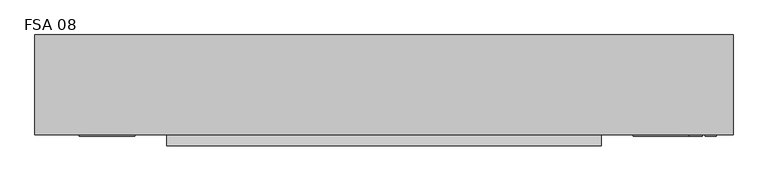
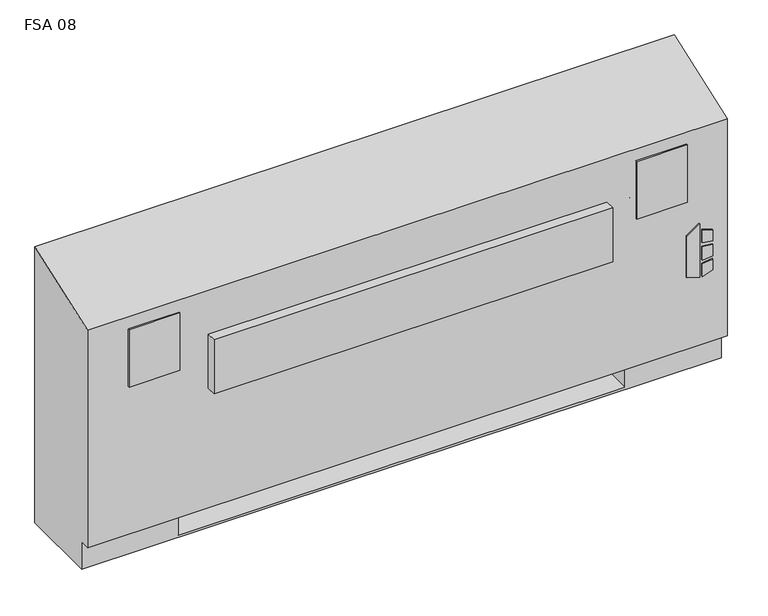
"""IFC4 building model written with IfcOpenShell, lengths in millimetres: proxy geometry, Vertical_Fan_Coil_Unit_-_FSA_-_IEC_-_2-Pipe_FS-FR_RH_2022 : FSA 08."""

from ifc_helpers import new_model, si_unit, point, frame, frame_2d, origin, place, context, project, spatial, polyline, circle_curve, trimmed, segment, composite_curve, outline, extrude, source, transform, mapped, element, save
from ifc_brep_helpers import plane_surface, revolved_surface, advanced_brep


def fsa_08_34fc3663(model_context):
    return source(origin(), model_context, "Body", "SolidModel", [
        extrude(outline(polyline([(263.9480703, 849.3868862), (254.0, 881.5602728), (396.1709244, 881.5602728), (373.1489183, 849.3868862), (263.9480703, 849.3868862)])), frame((0.0, 12.7, 0.0), z_axis=(0.0, 1.0, 0.0), x_axis=(0.0, 0.0, 1.0)), (0.0, 0.0, 1.0), 3.175),
        extrude(outline(polyline([(342.9473557, 888.3186058), (339.7449632, 914.4), (368.9738042, 914.4), (377.0382193, 888.3186058), (342.9473557, 888.3186058)])), frame((0.0, 12.7, 0.0), z_axis=(0.0, 1.0, 0.0), x_axis=(0.0, 0.0, 1.0)), (0.0, 0.0, 1.0), 3.175),
        extrude(outline(polyline([(291.0838288, 914.4), (287.4183279, 888.3186058), (254.0, 888.3186058), (262.6342372, 914.4), (291.0838288, 914.4)])), frame((0.0, 12.7, 0.0), z_axis=(0.0, 1.0, 0.0), x_axis=(0.0, 0.0, 1.0)), (0.0, 0.0, 1.0), 3.175),
        extrude(outline(polyline([(330.3989903, 914.4), (332.6808166, 888.3186058), (296.7432681, 888.3186058), (299.4845331, 914.4), (330.3989903, 914.4)])), frame((0.0, 12.7, 0.0), z_axis=(0.0, 1.0, 0.0), x_axis=(0.0, 0.0, 1.0)), (0.0, 0.0, 1.0), 3.175),
        extrude(outline(polyline([(-527.05, 81.534), (-527.05, 223.266), (-406.4, 223.266), (-406.4, 81.534), (-527.05, 81.534)])), frame((0.0, 0.0, 327.025), z_axis=(0.0, 0.0, 1.0), x_axis=(1.0, 0.0, 0.0)), (0.0, 0.0, 1.0), 260.35),
        extrude(outline(polyline([(-419.1, 12.7), (-546.1, 12.7), (-546.1, 15.875), (-419.1, 15.875), (-419.1, 12.7)])), frame((0.0, 0.0, 463.55), z_axis=(0.0, 0.0, 1.0), x_axis=(1.0, 0.0, 0.0)), (0.0, 0.0, 1.0), 152.4),
        extrude(outline(polyline([(850.9, 12.7), (723.9, 12.7), (723.9, 15.875), (850.9, 15.875), (850.9, 12.7)])), frame((0.0, 0.0, 463.55), z_axis=(0.0, 0.0, 1.0), x_axis=(1.0, 0.0, 0.0)), (0.0, 0.0, 1.0), 152.4),
        extrude(outline(composite_curve([segment(trimmed(circle_curve(frame_2d((774.7, 130.175)), 9.525), [point((765.175, 130.175))], [point((784.225, 130.175))], False, "CARTESIAN"), True, "CONTINUOUS"), segment(trimmed(circle_curve(frame_2d((774.7, 130.175)), 9.525), [point((784.225, 130.175))], [point((765.175, 130.175))], False, "CARTESIAN"), True, "CONTINUOUS")], self_intersect=False)), frame((0.0, 0.0, 101.6), z_axis=(0.0, 0.0, 1.0), x_axis=(1.0, 0.0, 0.0)), (0.0, 0.0, 1.0), 25.4),
        extrude(outline(polyline([(876.3, 196.85), (876.3, 63.5), (711.2, 63.5), (711.2, 196.85), (876.3, 196.85)])), frame((0.0, 0.0, 127.0), z_axis=(0.0, 0.0, 1.0), x_axis=(1.0, 0.0, 0.0)), (0.0, 0.0, 1.0), 50.8),
        extrude(outline(polyline([(650.875, -9.525), (-346.075, -9.525), (-346.075, 15.875), (650.875, 15.875), (650.875, -9.525)])), frame((0.0, 0.0, 389.3009245), z_axis=(0.0, 0.0, 1.0), x_axis=(1.0, 0.0, 0.0)), (0.0, 0.0, 1.0), 142.875),
        extrude(outline(composite_curve([segment(trimmed(circle_curve(frame_2d((109.347, 456.819)), 7.9375), [point((109.347, 464.7565))], [point((109.347, 448.8815))], False, "CARTESIAN"), True, "CONTINUOUS"), segment(trimmed(circle_curve(frame_2d((109.347, 456.819)), 7.9375), [point((109.347, 448.8815))], [point((109.347, 464.7565))], False, "CARTESIAN"), True, "CONTINUOUS")], self_intersect=False)), frame((711.2, 0.0, 0.0), z_axis=(1.0, 0.0, 0.0), x_axis=(0.0, 1.0, 0.0)), (0.0, 0.0, 1.0), 50.8),
        extrude(outline(composite_curve([segment(trimmed(circle_curve(frame_2d((157.4546, 429.4632)), 7.9375), [point((157.4546, 437.4007))], [point((157.4546, 421.5257))], False, "CARTESIAN"), True, "CONTINUOUS"), segment(trimmed(circle_curve(frame_2d((157.4546, 429.4632)), 7.9375), [point((157.4546, 421.5257))], [point((157.4546, 437.4007))], False, "CARTESIAN"), True, "CONTINUOUS")], self_intersect=False)), frame((711.2, 0.0, 0.0), z_axis=(1.0, 0.0, 0.0), x_axis=(0.0, 1.0, 0.0)), (0.0, 0.0, 1.0), 50.8),
        advanced_brep(
        [(-647.7, 244.475, 0.0), (952.5, 244.475, 0.0), (952.5, 41.275, 0.0), (-647.7, 41.275, 0.0), (-647.7, 244.475, 730.25), (952.5, 244.475, 730.25), (711.2, 244.475, 73.025), (939.8, 244.475, 73.025), (939.8, 244.475, 654.05), (711.2, 244.475, 654.05), (711.2, 244.475, 414.8650565), (739.775, 244.475, 414.8650565), (739.775, 244.475, 385.2349435), (711.2, 244.475, 385.2349435), (711.2, 244.475, 287.3375), (739.775, 244.475, 287.3375), (739.775, 244.475, 258.7625), (711.2, 244.475, 258.7625), (711.2, 244.475, 141.2875), (739.775, 244.475, 141.2875), (739.775, 244.475, 112.7125), (711.2, 244.475, 112.7125), (-406.4, 244.475, 654.05), (-635.0, 244.475, 654.05), (-635.0, 244.475, 73.025), (-406.4, 244.475, 73.025), (-406.4, 244.475, 112.7125), (-434.975, 244.475, 112.7125), (-434.975, 244.475, 141.2875), (-406.4, 244.475, 141.2875), (-406.4, 244.475, 258.7625), (-434.975, 244.475, 258.7625), (-434.975, 244.475, 287.3375), (-406.4, 244.475, 287.3375), (-406.4, 244.475, 385.2349435), (-434.975, 244.475, 385.2349435), (-434.975, 244.475, 414.8650565), (-406.4, 244.475, 414.8650565), (729.4626, 244.475, 127.0), (718.3374, 244.475, 127.0), (729.4626, 244.475, 400.05), (718.3374, 244.475, 400.05), (729.4626, 244.475, 273.05), (718.3374, 244.475, 273.05), (-413.5374, 244.475, 127.0), (-424.6626, 244.475, 127.0), (-413.5374, 244.475, 273.05), (-424.6626, 244.475, 273.05), (-413.5374, 244.475, 400.05), (-424.6626, 244.475, 400.05), (-647.7, 41.275, 73.025), (-647.7, 15.875, 73.025), (-647.7, 15.875, 647.7), (952.5, 15.875, 73.025), (952.5, 15.875, 647.7), (952.5, 41.275, 73.025), (-406.4, 41.275, 73.025), (-406.4, 225.425, 73.025), (711.2, 225.425, 73.025), (711.2, 41.275, 73.025), (711.2, 41.275, 6.35), (-406.4, 41.275, 6.35), (711.2, 41.275, 654.05), (939.8, 41.275, 654.05), (939.8, 41.275, 73.025), (711.2, 41.275, 73.025), (-406.4, 41.275, 654.05), (-406.4, 41.275, 73.025), (-635.0, 41.275, 73.025), (-635.0, 41.275, 654.05), (711.2, 225.425, 73.025), (711.2, 238.125, 112.7125), (711.2, 238.125, 141.2875), (711.2, 238.125, 258.7625), (711.2, 238.125, 287.3375), (711.2, 238.125, 385.2349435), (711.2, 238.125, 414.8650565), (-406.4, 225.425, 73.025), (-406.4, 238.125, 414.8650565), (-406.4, 238.125, 385.2349435), (-406.4, 238.125, 287.3375), (-406.4, 238.125, 258.7625), (-406.4, 238.125, 141.2875), (-406.4, 238.125, 112.7125), (-406.4, 225.425, 6.35), (711.2, 225.425, 6.35), (739.775, 238.125, 112.7125), (739.775, 238.125, 141.2875), (718.3374, 238.125, 127.0), (729.4626, 238.125, 127.0), (739.775, 238.125, 258.7625), (739.775, 238.125, 287.3375), (718.3374, 238.125, 273.05), (729.4626, 238.125, 273.05), (739.775, 238.125, 385.2349435), (739.775, 238.125, 414.8650565), (718.3374, 238.125, 400.05), (729.4626, 238.125, 400.05), (-434.975, 238.125, 141.2875), (-434.975, 238.125, 112.7125), (-424.6626, 238.125, 127.0), (-413.5374, 238.125, 127.0), (-434.975, 238.125, 287.3375), (-434.975, 238.125, 258.7625), (-424.6626, 238.125, 273.05), (-413.5374, 238.125, 273.05), (-434.975, 238.125, 414.8650565), (-434.975, 238.125, 385.2349435), (-424.6626, 238.125, 400.05), (-413.5374, 238.125, 400.05)],
        [
            (0, 1),
            (1, 2),
            (2, 3),
            (3, 0),
            (0, 4),
            (4, 5),
            (5, 1),
            (6, 7),
            (7, 8),
            (8, 9),
            (9, 10),
            (10, 11),
            (11, 12),
            (12, 13),
            (13, 14),
            (14, 15),
            (15, 16),
            (16, 17),
            (17, 18),
            (18, 19),
            (19, 20),
            (20, 21),
            (21, 6),
            (22, 23),
            (23, 24),
            (24, 25),
            (25, 26),
            (26, 27),
            (27, 28),
            (28, 29),
            (29, 30),
            (30, 31),
            (31, 32),
            (32, 33),
            (33, 34),
            (34, 35),
            (35, 36),
            (36, 37),
            (37, 22),
            (38, 39, circle_curve(frame((723.9, 244.475, 127.0), z_axis=(0.0, -1.0, 0.0), x_axis=(-1.0, 0.0, 0.0)), 5.5626)),
            (39, 38, circle_curve(frame((723.9, 244.475, 127.0), z_axis=(0.0, -1.0, 0.0), x_axis=(-1.0, 0.0, 0.0)), 5.5626)),
            (40, 41, circle_curve(frame((723.9, 244.475, 400.05), z_axis=(0.0, -1.0, 0.0), x_axis=(-1.0, 0.0, 0.0)), 5.5626)),
            (41, 40, circle_curve(frame((723.9, 244.475, 400.05), z_axis=(0.0, -1.0, 0.0), x_axis=(-1.0, 0.0, 0.0)), 5.5626)),
            (42, 43, circle_curve(frame((723.9, 244.475, 273.05), z_axis=(0.0, -1.0, 0.0), x_axis=(-1.0, 0.0, 0.0)), 5.5626)),
            (43, 42, circle_curve(frame((723.9, 244.475, 273.05), z_axis=(0.0, -1.0, 0.0), x_axis=(-1.0, 0.0, 0.0)), 5.5626)),
            (44, 45, circle_curve(frame((-419.1, 244.475, 127.0), z_axis=(0.0, -1.0, 0.0), x_axis=(-1.0, 0.0, 0.0)), 5.5626)),
            (45, 44, circle_curve(frame((-419.1, 244.475, 127.0), z_axis=(0.0, -1.0, 0.0), x_axis=(-1.0, 0.0, 0.0)), 5.5626)),
            (46, 47, circle_curve(frame((-419.1, 244.475, 273.05), z_axis=(0.0, -1.0, 0.0), x_axis=(-1.0, 0.0, 0.0)), 5.5626)),
            (47, 46, circle_curve(frame((-419.1, 244.475, 273.05), z_axis=(0.0, -1.0, 0.0), x_axis=(-1.0, 0.0, 0.0)), 5.5626)),
            (48, 49, circle_curve(frame((-419.1, 244.475, 400.05), z_axis=(0.0, -1.0, 0.0), x_axis=(-1.0, 0.0, 0.0)), 5.5626)),
            (49, 48, circle_curve(frame((-419.1, 244.475, 400.05), z_axis=(0.0, -1.0, 0.0), x_axis=(-1.0, 0.0, 0.0)), 5.5626)),
            (3, 50),
            (50, 51),
            (51, 52),
            (52, 4),
            (51, 53),
            (53, 54),
            (54, 52),
            (5, 54),
            (53, 55),
            (55, 2),
            (50, 56),
            (56, 57),
            (57, 58),
            (58, 59),
            (59, 55),
            (59, 60),
            (60, 61),
            (61, 56),
            (62, 63),
            (63, 64),
            (64, 65),
            (65, 62),
            (66, 67),
            (67, 68),
            (68, 69),
            (69, 66),
            (65, 70),
            (70, 6),
            (21, 71),
            (71, 72),
            (72, 18),
            (17, 73),
            (73, 74),
            (74, 14),
            (13, 75),
            (75, 76),
            (76, 10),
            (9, 62),
            (64, 7),
            (63, 8),
            (69, 23),
            (22, 66),
            (68, 24),
            (67, 77),
            (77, 25),
            (37, 78),
            (78, 79),
            (79, 34),
            (33, 80),
            (80, 81),
            (81, 30),
            (29, 82),
            (82, 83),
            (83, 26),
            (57, 84),
            (84, 85),
            (85, 58),
            (85, 60),
            (84, 61),
            (71, 86),
            (86, 87),
            (87, 72),
            (88, 89, circle_curve(frame((723.9, 238.125, 127.0), z_axis=(0.0, 1.0, 0.0), x_axis=(-1.0, 0.0, 0.0)), 5.5626)),
            (89, 88, circle_curve(frame((723.9, 238.125, 127.0), z_axis=(0.0, 1.0, 0.0), x_axis=(-1.0, 0.0, 0.0)), 5.5626)),
            (73, 90),
            (90, 91),
            (91, 74),
            (92, 93, circle_curve(frame((723.9, 238.125, 273.05), z_axis=(0.0, 1.0, 0.0), x_axis=(-1.0, 0.0, 0.0)), 5.5626)),
            (93, 92, circle_curve(frame((723.9, 238.125, 273.05), z_axis=(0.0, 1.0, 0.0), x_axis=(-1.0, 0.0, 0.0)), 5.5626)),
            (75, 94),
            (94, 95),
            (95, 76),
            (96, 97, circle_curve(frame((723.9, 238.125, 400.05), z_axis=(0.0, 1.0, 0.0), x_axis=(-1.0, 0.0, 0.0)), 5.5626)),
            (97, 96, circle_curve(frame((723.9, 238.125, 400.05), z_axis=(0.0, 1.0, 0.0), x_axis=(-1.0, 0.0, 0.0)), 5.5626)),
            (98, 99),
            (99, 83),
            (82, 98),
            (100, 101, circle_curve(frame((-419.1, 238.125, 127.0), z_axis=(0.0, 1.0, 0.0), x_axis=(-1.0, 0.0, 0.0)), 5.5626)),
            (101, 100, circle_curve(frame((-419.1, 238.125, 127.0), z_axis=(0.0, 1.0, 0.0), x_axis=(-1.0, 0.0, 0.0)), 5.5626)),
            (102, 103),
            (103, 81),
            (80, 102),
            (104, 105, circle_curve(frame((-419.1, 238.125, 273.05), z_axis=(0.0, 1.0, 0.0), x_axis=(-1.0, 0.0, 0.0)), 5.5626)),
            (105, 104, circle_curve(frame((-419.1, 238.125, 273.05), z_axis=(0.0, 1.0, 0.0), x_axis=(-1.0, 0.0, 0.0)), 5.5626)),
            (106, 107),
            (107, 79),
            (78, 106),
            (108, 109, circle_curve(frame((-419.1, 238.125, 400.05), z_axis=(0.0, 1.0, 0.0), x_axis=(-1.0, 0.0, 0.0)), 5.5626)),
            (109, 108, circle_curve(frame((-419.1, 238.125, 400.05), z_axis=(0.0, 1.0, 0.0), x_axis=(-1.0, 0.0, 0.0)), 5.5626)),
            (87, 19),
            (86, 20),
            (91, 15),
            (90, 16),
            (95, 11),
            (94, 12),
            (28, 98),
            (99, 27),
            (32, 102),
            (103, 31),
            (36, 106),
            (107, 35),
            (88, 39),
            (38, 89),
            (96, 41),
            (40, 97),
            (92, 43),
            (42, 93),
            (100, 45),
            (44, 101),
            (104, 47),
            (46, 105),
            (108, 49),
            (48, 109),
        ],
        [
            plane_surface(frame((-647.7, 244.475, 0.0), z_axis=(0.0, 0.0, -1.0), x_axis=(1.0, 0.0, 0.0))),
            plane_surface(frame((952.5, 244.475, 730.25), z_axis=(0.0, 1.0, 0.0), x_axis=(0.0, 0.0, -1.0))),
            plane_surface(frame((-647.7, 244.475, 730.25), z_axis=(-1.0, 0.0, 0.0), x_axis=(0.0, 0.0, -1.0))),
            plane_surface(frame((-647.7, 15.875, 730.25), z_axis=(0.0, -1.0, 0.0), x_axis=(0.0, 0.0, -1.0))),
            plane_surface(frame((952.5, 15.875, 730.25), z_axis=(1.0, 0.0, 0.0), x_axis=(0.0, 0.0, -1.0))),
            plane_surface(frame((-647.7, 15.875, 73.025), z_axis=(0.0, 0.0, -1.0), x_axis=(1.0, 0.0, 0.0))),
            plane_surface(frame((-647.7, 41.275, 73.025), z_axis=(0.0, -1.0, 0.0), x_axis=(1.0, 0.0, 0.0))),
            plane_surface(frame((711.2, 41.275, 654.05), z_axis=(0.0, 1.0, 0.0), x_axis=(0.0, 0.0, -1.0))),
            plane_surface(frame((711.2, 41.275, 654.05), z_axis=(1.0, 0.0, 0.0), x_axis=(0.0, 1.0, 0.0))),
            plane_surface(frame((711.2, 41.275, 73.025), z_axis=(0.0, 0.0, 1.0), x_axis=(0.0, 1.0, 0.0))),
            plane_surface(frame((939.8, 41.275, 73.025), z_axis=(-1.0, 0.0, 0.0), x_axis=(0.0, 1.0, 0.0))),
            plane_surface(frame((939.8, 41.275, 654.05), z_axis=(0.0, 0.0, -1.0), x_axis=(0.0, 1.0, 0.0))),
            plane_surface(frame((-406.4, 41.275, 654.05), z_axis=(0.0, 0.0, -1.0), x_axis=(0.0, 1.0, 0.0))),
            plane_surface(frame((-635.0, 41.275, 654.05), z_axis=(1.0, 0.0, 0.0), x_axis=(0.0, 1.0, 0.0))),
            plane_surface(frame((-635.0, 41.275, 73.025), z_axis=(0.0, 0.0, 1.0), x_axis=(0.0, 1.0, 0.0))),
            plane_surface(frame((-406.4, 41.275, 73.025), z_axis=(-1.0, 0.0, 0.0), x_axis=(0.0, 1.0, 0.0))),
            plane_surface(frame((711.2, 225.425, 73.025), z_axis=(0.0, -1.0, 0.0), x_axis=(0.0, 0.0, -1.0))),
            plane_surface(frame((711.2, 225.425, 73.025), z_axis=(-1.0, 0.0, 0.0), x_axis=(0.0, -1.0, 0.0))),
            plane_surface(frame((711.2, 225.425, 6.35), z_axis=(0.0, 0.0, 1.0), x_axis=(0.0, -1.0, 0.0))),
            plane_surface(frame((-406.4, 225.425, 6.35), z_axis=(1.0, 0.0, 0.0), x_axis=(0.0, -1.0, 0.0))),
            plane_surface(frame((739.775, 238.125, 141.2875), z_axis=(0.0, -1.0, 0.0), x_axis=(-1.0, 0.0, 0.0))),
            plane_surface(frame((711.2, 244.475, 141.2875), z_axis=(0.0, 0.0, 1.0), x_axis=(0.0, -1.0, 0.0))),
            plane_surface(frame((739.775, 244.475, 141.2875), z_axis=(1.0, 0.0, 0.0), x_axis=(0.0, -1.0, 0.0))),
            plane_surface(frame((739.775, 244.475, 112.7125), z_axis=(0.0, 0.0, -1.0), x_axis=(0.0, -1.0, 0.0))),
            plane_surface(frame((711.2, 244.475, 287.3375), z_axis=(0.0, 0.0, 1.0), x_axis=(0.0, -1.0, 0.0))),
            plane_surface(frame((739.775, 244.475, 287.3375), z_axis=(1.0, 0.0, 0.0), x_axis=(0.0, -1.0, 0.0))),
            plane_surface(frame((739.775, 244.475, 258.7625), z_axis=(0.0, 0.0, -1.0), x_axis=(0.0, -1.0, 0.0))),
            plane_surface(frame((711.2, 244.475, 414.8650565), z_axis=(0.0, 0.0, 1.0), x_axis=(0.0, -1.0, 0.0))),
            plane_surface(frame((739.775, 244.475, 414.8650565), z_axis=(1.0, 0.0, 0.0), x_axis=(0.0, -1.0, 0.0))),
            plane_surface(frame((739.775, 244.475, 385.2349435), z_axis=(0.0, 0.0, -1.0), x_axis=(0.0, -1.0, 0.0))),
            plane_surface(frame((-434.975, 244.475, 141.2875), z_axis=(0.0, 0.0, 1.0), x_axis=(0.0, -1.0, 0.0))),
            plane_surface(frame((-406.4, 244.475, 112.7125), z_axis=(0.0, 0.0, -1.0), x_axis=(0.0, -1.0, 0.0))),
            plane_surface(frame((-434.975, 244.475, 112.7125), z_axis=(-1.0, 0.0, 0.0), x_axis=(0.0, -1.0, 0.0))),
            plane_surface(frame((-434.975, 244.475, 287.3375), z_axis=(0.0, 0.0, 1.0), x_axis=(0.0, -1.0, 0.0))),
            plane_surface(frame((-406.4, 244.475, 258.7625), z_axis=(0.0, 0.0, -1.0), x_axis=(0.0, -1.0, 0.0))),
            plane_surface(frame((-434.975, 244.475, 258.7625), z_axis=(-1.0, 0.0, 0.0), x_axis=(0.0, -1.0, 0.0))),
            plane_surface(frame((-434.975, 244.475, 414.8650565), z_axis=(0.0, 0.0, 1.0), x_axis=(0.0, -1.0, 0.0))),
            plane_surface(frame((-406.4, 244.475, 385.2349435), z_axis=(0.0, 0.0, -1.0), x_axis=(0.0, -1.0, 0.0))),
            plane_surface(frame((-434.975, 244.475, 385.2349435), z_axis=(-1.0, 0.0, 0.0), x_axis=(0.0, -1.0, 0.0))),
            revolved_surface(polyline([(718.3374, 238.125, 127.0), (718.3374, 244.475, 127.0)]), (723.9, 244.475, 127.0), (0.0, -1.0, 0.0)),
            revolved_surface(polyline([(718.3374, 238.125, 400.05), (718.3374, 244.475, 400.05)]), (723.9, 244.475, 400.05), (0.0, -1.0, 0.0)),
            revolved_surface(polyline([(718.3374, 238.125, 273.05), (718.3374, 244.475, 273.05)]), (723.9, 244.475, 273.05), (0.0, -1.0, 0.0)),
            revolved_surface(polyline([(-424.6626, 238.125, 127.0), (-424.6626, 244.475, 127.0)]), (-419.1, 244.475, 127.0), (0.0, -1.0, 0.0)),
            revolved_surface(polyline([(-424.6626, 238.125, 273.05), (-424.6626, 244.475, 273.05)]), (-419.1, 244.475, 273.05), (0.0, -1.0, 0.0)),
            revolved_surface(polyline([(-424.6626, 238.125, 400.05), (-424.6626, 244.475, 400.05)]), (-419.1, 244.475, 400.05), (0.0, -1.0, 0.0)),
            plane_surface(frame((-647.7, 244.475, 730.25), z_axis=(0.0, -0.33964446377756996, 0.9405538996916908), x_axis=(1.0, 0.0, 0.0))),
        ],
        [
            (0, [[1, 2, 3, 4]]),
            (1, [[-1, 5, 6, 7], [8, 9, 10, 11, 12, 13, 14, 15, 16, 17, 18, 19, 20, 21, 22, 23], [24, 25, 26, 27, 28, 29, 30, 31, 32, 33, 34, 35, 36, 37, 38, 39], [40, 41], [42, 43], [44, 45], [46, 47], [48, 49], [50, 51]]),
            (2, [[-5, -4, 52, 53, 54, 55]]),
            (3, [[56, 57, 58, -54]]),
            (4, [[-7, 59, -57, 60, 61, -2]]),
            (5, [[-53, 62, 63, 64, 65, 66, -60, -56]]),
            (6, [[-3, -61, -66, 67, 68, 69, -62, -52]]),
            (7, [[70, 71, 72, 73]]),
            (7, [[74, 75, 76, 77]]),
            (8, [[-73, 78, 79, -23, 80, 81, 82, -19, 83, 84, 85, -15, 86, 87, 88, -11, 89]]),
            (9, [[-72, 90, -8, -79, -78]]),
            (10, [[-71, 91, -9, -90]]),
            (11, [[-70, -89, -10, -91]]),
            (12, [[-77, 92, -24, 93]]),
            (13, [[-76, 94, -25, -92]]),
            (14, [[-75, 95, 96, -26, -94]]),
            (15, [[-74, -93, -39, 97, 98, 99, -35, 100, 101, 102, -31, 103, 104, 105, -27, -96, -95]]),
            (16, [[-64, 106, 107, 108]]),
            (17, [[-108, 109, -67, -65]]),
            (18, [[-107, 110, -68, -109]]),
            (19, [[-106, -63, -69, -110]]),
            (20, [[111, 112, 113, -81], [114, 115]]),
            (20, [[116, 117, 118, -84], [119, 120]]),
            (20, [[121, 122, 123, -87], [124, 125]]),
            (20, [[126, 127, -104, 128], [129, 130]]),
            (20, [[131, 132, -101, 133], [134, 135]]),
            (20, [[136, 137, -98, 138], [139, 140]]),
            (21, [[-113, 141, -20, -82]]),
            (22, [[-112, 142, -21, -141]]),
            (23, [[-111, -80, -22, -142]]),
            (24, [[-118, 143, -16, -85]]),
            (25, [[-117, 144, -17, -143]]),
            (26, [[-116, -83, -18, -144]]),
            (27, [[-123, 145, -12, -88]]),
            (28, [[-122, 146, -13, -145]]),
            (29, [[-121, -86, -14, -146]]),
            (30, [[-128, -103, -30, 147]]),
            (31, [[-127, 148, -28, -105]]),
            (32, [[-126, -147, -29, -148]]),
            (33, [[-133, -100, -34, 149]]),
            (34, [[-132, 150, -32, -102]]),
            (35, [[-131, -149, -33, -150]]),
            (36, [[-138, -97, -38, 151]]),
            (37, [[-137, 152, -36, -99]]),
            (38, [[-136, -151, -37, -152]]),
            (39, [[153, -40, 154, -114]]),
            (39, [[-153, -115, -154, -41]]),
            (40, [[155, -42, 156, -124]]),
            (40, [[-155, -125, -156, -43]]),
            (41, [[157, -44, 158, -119]]),
            (41, [[-157, -120, -158, -45]]),
            (42, [[159, -46, 160, -129]]),
            (42, [[-159, -130, -160, -47]]),
            (43, [[161, -48, 162, -134]]),
            (43, [[-161, -135, -162, -49]]),
            (44, [[163, -50, 164, -139]]),
            (44, [[-163, -140, -164, -51]]),
            (45, [[-6, -55, -58, -59]]),
        ],
    ),
    ])


if __name__ == "__main__":
    model = new_model("IFC4")
    model_context = context("Model", 3, world=origin())
    ifc_project = project(units=[si_unit("LENGTHUNIT", "METRE", prefix="MILLI")], contexts=[model_context])
    site = spatial("IfcSite", under=ifc_project)
    building = spatial("IfcBuilding", under=site)
    placement = place(None, origin())
    fsa_08_shape = fsa_08_34fc3663(model_context)
    element("IfcBuildingElementProxy", 1, Name="Vertical_Fan_Coil_Unit_-_FSA_-_IEC_-_2-Pipe_FS-FR_RH_2022 : FSA 08", ObjectType="Vertical_Fan_Coil_Unit_-_FSA_-_IEC_-_2-Pipe_FS-FR_RH_2022 : FSA 08", at=placement, inside=building, context=model_context, shape_type="MappedRepresentation", body=[
        mapped(fsa_08_shape, transform((0.0, 0.0, 0.0), x_axis=(1.0, 0.0, 0.0), y_axis=(0.0, 1.0, 0.0), z_axis=(0.0, 0.0, 1.0))),
    ])
    save(model, "model.ifc")
